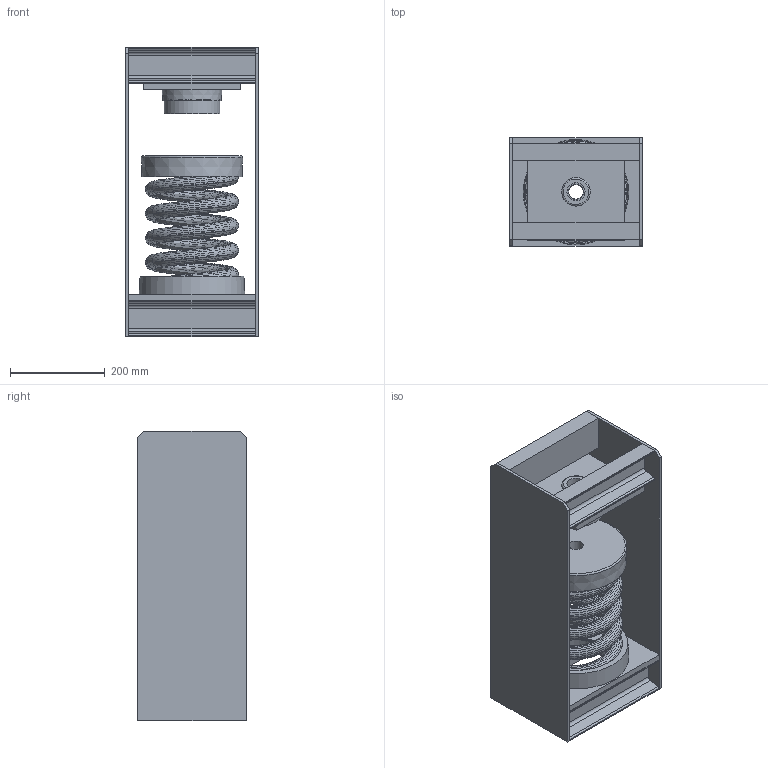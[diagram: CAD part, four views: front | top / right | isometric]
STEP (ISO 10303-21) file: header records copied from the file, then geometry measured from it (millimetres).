
FILE_DESCRIPTION(/* description */ (''),/* implementation_level */ '2;1');
FILE_NAME(/* name */ 'C:\001_Work\Designs\HANGER BOXES\30N 100 SERIES\30N-137-138, 160-161\30N-138.stp',/* time_stamp */ '2015-06-01T11:31:35-04:00',/* author */ ('rramoutar'),/* organization */ ('Mason Industries Inc.'),/* preprocessor_version */ 'ST-DEVELOPER v15.2',/* originating_system */ 'Autodesk Inventor 2014',/* authorisation */ '');
FILE_SCHEMA (('AUTOMOTIVE_DESIGN { 1 0 10303 214 3 1 1 }'));
Products named in the file (1): 30N-138
Bounding box: 279.4 x 228.6 x 609.6 mm (x, y, z)
Volume: 5467251.1 mm3; surface area: 2001338.7 mm2
Topology: 15 solids, 15 shells, 720 faces, 1518 edges, 840 vertices
Faces by surface type: bspline 495, plane 166, cylinder 42, cone 15, torus 2
Full cylindrical faces by diameter (mm): 30.162 x1, 31.75 x1, 38.1 x2, 47.625 x4, 60.325 x1, 107.95 x2, 117.475 x1, 122.237 x2, 127 x1, 131.762 x1, 133.35 x2, 136.525 x2, 195.262 x1, 200.025 x2, 201.612 x1
Entity records: 39073 total; most frequent: CARTESIAN_POINT 26847, ORIENTED_EDGE 2972, EDGE_CURVE 1486, DIRECTION 1006, B_SPLINE_CURVE_WITH_KNOTS 1002, VERTEX_POINT 837, EDGE_LOOP 779, STYLED_ITEM 735
